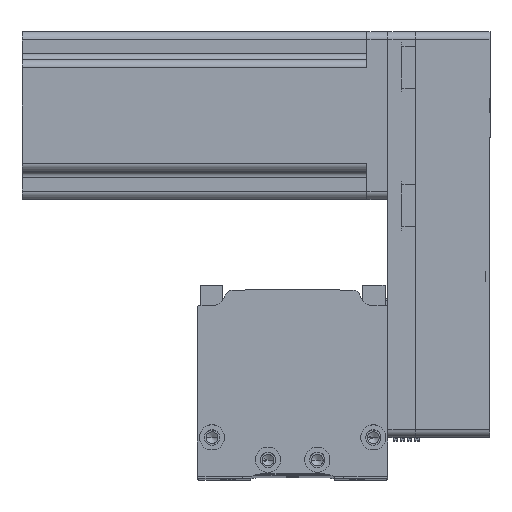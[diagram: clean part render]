
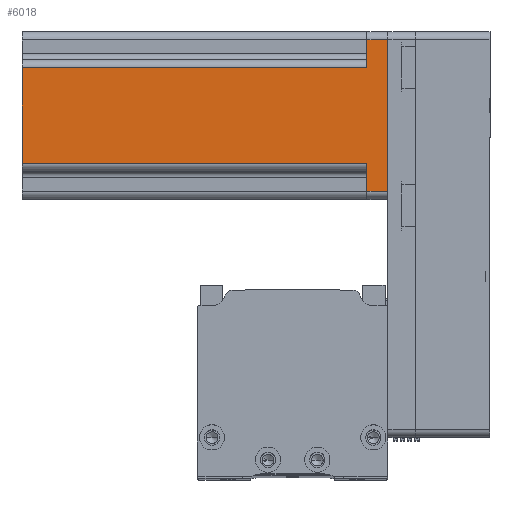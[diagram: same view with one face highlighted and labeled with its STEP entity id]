
A CAD part, top view. The second image highlights one B-rep face of the part: STEP entity #6018.
In plain terms, the highlighted planar face has unit normal (0, 0, 1) as drawn and (0, -1, 0) by its records, which use the part's own axes.
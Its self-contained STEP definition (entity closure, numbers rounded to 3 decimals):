
#2229 = VECTOR ( 'NONE', #17082, 1000. ) ;
#2932 = CARTESIAN_POINT ( 'NONE',  ( -17., -30., 130.7 ) ) ;
#3491 = LINE ( 'NONE', #34503, #20558 ) ;
#4146 = EDGE_CURVE ( 'NONE', #25702, #43880, #24856, .T. ) ;
#4261 = AXIS2_PLACEMENT_3D ( 'NONE', #14031, #37645, #17424 ) ;
#4809 = CARTESIAN_POINT ( 'NONE',  ( 17., -30., 130.7 ) ) ;
#6018 = ADVANCED_FACE ( 'NONE', ( #21628 ), #20708, .F. ) ;
#7081 = DIRECTION ( 'NONE',  ( 0., 0., 1. ) ) ;
#7969 = VERTEX_POINT ( 'NONE', #2932 ) ;
#8227 = DIRECTION ( 'NONE',  ( 0., 0., 1. ) ) ;
#8557 = VERTEX_POINT ( 'NONE', #30224 ) ;
#8687 = ORIENTED_EDGE ( 'NONE', *, *, #37325, .F. ) ;
#9285 = EDGE_CURVE ( 'NONE', #7969, #41305, #34202, .T. ) ;
#10400 = CARTESIAN_POINT ( 'NONE',  ( 30., -30., 0. ) ) ;
#11281 = LINE ( 'NONE', #10400, #2229 ) ;
#11912 = EDGE_LOOP ( 'NONE', ( #16677, #33947, #8687, #16028, #28522, #18632, #17191, #31466 ) ) ;
#13344 = EDGE_CURVE ( 'NONE', #22173, #38409, #15033, .T. ) ;
#13556 = EDGE_CURVE ( 'NONE', #38409, #8557, #11281, .T. ) ;
#13968 = VECTOR ( 'NONE', #26308, 1000. ) ;
#14031 = CARTESIAN_POINT ( 'NONE',  ( 30., -30., 130.7 ) ) ;
#14289 = DIRECTION ( 'NONE',  ( 0., 0., -1. ) ) ;
#15033 = LINE ( 'NONE', #43117, #13968 ) ;
#15878 = VECTOR ( 'NONE', #16399, 1000. ) ;
#16028 = ORIENTED_EDGE ( 'NONE', *, *, #13344, .T. ) ;
#16399 = DIRECTION ( 'NONE',  ( -1., 0., 0. ) ) ;
#16677 = ORIENTED_EDGE ( 'NONE', *, *, #9285, .F. ) ;
#16694 = VECTOR ( 'NONE', #7081, 1000. ) ;
#17082 = DIRECTION ( 'NONE',  ( 1., 0., 0. ) ) ;
#17191 = ORIENTED_EDGE ( 'NONE', *, *, #4146, .T. ) ;
#17241 = CARTESIAN_POINT ( 'NONE',  ( 27., -30., 130.7 ) ) ;
#17424 = DIRECTION ( 'NONE',  ( -1., 0., 0. ) ) ;
#17868 = EDGE_CURVE ( 'NONE', #7969, #34306, #3491, .T. ) ;
#18632 = ORIENTED_EDGE ( 'NONE', *, *, #25504, .T. ) ;
#20259 = VECTOR ( 'NONE', #27352, 1000. ) ;
#20558 = VECTOR ( 'NONE', #14289, 1000. ) ;
#20708 = PLANE ( 'NONE',  #4261 ) ;
#21628 = FACE_OUTER_BOUND ( 'NONE', #11912, .T. ) ;
#21790 = CARTESIAN_POINT ( 'NONE',  ( 30., -30., 130.7 ) ) ;
#22173 = VERTEX_POINT ( 'NONE', #22288 ) ;
#22288 = CARTESIAN_POINT ( 'NONE',  ( -27., -30., 7.5 ) ) ;
#23136 = CARTESIAN_POINT ( 'NONE',  ( 20., -30., 7.5 ) ) ;
#23802 = CARTESIAN_POINT ( 'NONE',  ( 17., -30., 130.7 ) ) ;
#24305 = CARTESIAN_POINT ( 'NONE',  ( 17., -30., 7.5 ) ) ;
#24856 = LINE ( 'NONE', #23136, #15878 ) ;
#25280 = VECTOR ( 'NONE', #31902, 1000. ) ;
#25504 = EDGE_CURVE ( 'NONE', #8557, #25702, #25724, .T. ) ;
#25702 = VERTEX_POINT ( 'NONE', #28934 ) ;
#25724 = LINE ( 'NONE', #17241, #16694 ) ;
#25865 = VECTOR ( 'NONE', #8227, 1000. ) ;
#26286 = CARTESIAN_POINT ( 'NONE',  ( -17., -30., 7.5 ) ) ;
#26308 = DIRECTION ( 'NONE',  ( 0., 0., -1. ) ) ;
#26889 = LINE ( 'NONE', #4809, #25865 ) ;
#27352 = DIRECTION ( 'NONE',  ( 1., 0., 0. ) ) ;
#27483 = CARTESIAN_POINT ( 'NONE',  ( -20., -30., 7.5 ) ) ;
#28522 = ORIENTED_EDGE ( 'NONE', *, *, #13556, .T. ) ;
#28934 = CARTESIAN_POINT ( 'NONE',  ( 27., -30., 7.5 ) ) ;
#29807 = EDGE_CURVE ( 'NONE', #43880, #41305, #26889, .T. ) ;
#30224 = CARTESIAN_POINT ( 'NONE',  ( 27., -30., 0. ) ) ;
#31466 = ORIENTED_EDGE ( 'NONE', *, *, #29807, .T. ) ;
#31902 = DIRECTION ( 'NONE',  ( 1., 0., 0. ) ) ;
#33947 = ORIENTED_EDGE ( 'NONE', *, *, #17868, .T. ) ;
#34202 = LINE ( 'NONE', #21790, #25280 ) ;
#34306 = VERTEX_POINT ( 'NONE', #26286 ) ;
#34503 = CARTESIAN_POINT ( 'NONE',  ( -17., -30., 130.7 ) ) ;
#37325 = EDGE_CURVE ( 'NONE', #22173, #34306, #38200, .T. ) ;
#37645 = DIRECTION ( 'NONE',  ( 0., 1., 0. ) ) ;
#38200 = LINE ( 'NONE', #27483, #20259 ) ;
#38409 = VERTEX_POINT ( 'NONE', #41245 ) ;
#41245 = CARTESIAN_POINT ( 'NONE',  ( -27., -30., 0. ) ) ;
#41305 = VERTEX_POINT ( 'NONE', #23802 ) ;
#43117 = CARTESIAN_POINT ( 'NONE',  ( -27., -30., 130.7 ) ) ;
#43880 = VERTEX_POINT ( 'NONE', #24305 ) ;
